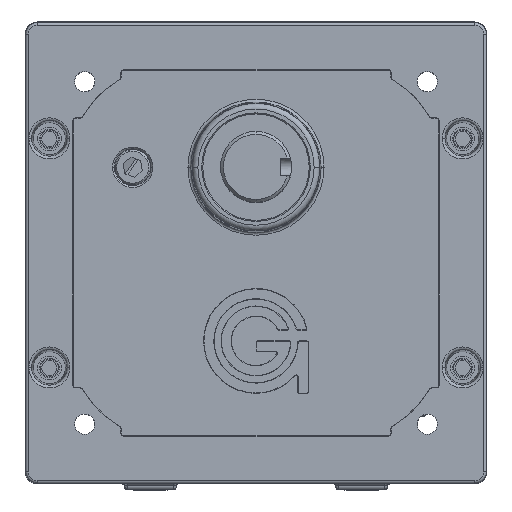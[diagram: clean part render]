
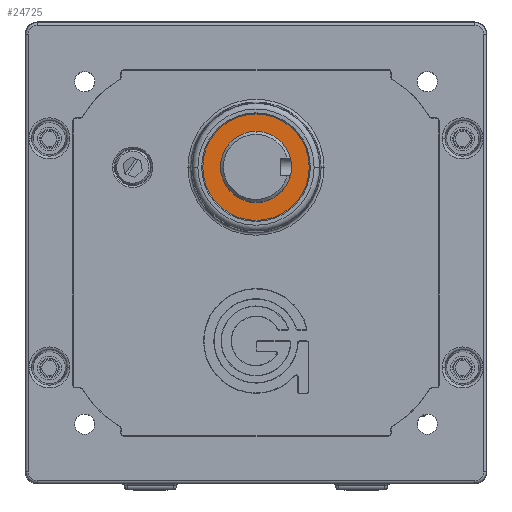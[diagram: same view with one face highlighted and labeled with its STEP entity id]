
A CAD part, top view. The second image highlights one B-rep face of the part: STEP entity #24725.
In plain terms, the highlighted planar face has unit normal (0, 0, 1).
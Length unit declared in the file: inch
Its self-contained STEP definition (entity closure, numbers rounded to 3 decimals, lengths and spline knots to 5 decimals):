
#13005 = DIRECTION ( 'NONE',  ( 1., 0., 0. ) ) ;
#13006 = DIRECTION ( 'NONE',  ( 0., 0., 1. ) ) ;
#13007 = CARTESIAN_POINT ( 'NONE',  ( 0., 0.906, 0.4012 ) ) ;
#13008 = AXIS2_PLACEMENT_3D ( 'NONE', #13007, #13006, #13005 ) ;
#13009 = CIRCLE ( 'NONE', #13008, 0.5625 ) ;
#13011 = CARTESIAN_POINT ( 'NONE',  ( -0.5625, 0.906, 0.4012 ) ) ;
#13012 = CARTESIAN_POINT ( 'NONE',  ( 0.5625, 0.906, 0.4012 ) ) ;
#13013 = DIRECTION ( 'NONE',  ( 1., 0., 0. ) ) ;
#13014 = DIRECTION ( 'NONE',  ( 0., 0., 1. ) ) ;
#13015 = CARTESIAN_POINT ( 'NONE',  ( 0., 0.906, 0.4012 ) ) ;
#13016 = AXIS2_PLACEMENT_3D ( 'NONE', #13015, #13014, #13013 ) ;
#13017 = CIRCLE ( 'NONE', #13016, 0.5625 ) ;
#13018 = DIRECTION ( 'NONE',  ( -1., 0., 0. ) ) ;
#13019 = DIRECTION ( 'NONE',  ( 0., 0., -1. ) ) ;
#13020 = CARTESIAN_POINT ( 'NONE',  ( 0., 1.281, 0.4012 ) ) ;
#13021 = AXIS2_PLACEMENT_3D ( 'NONE', #13020, #13019, #13018 ) ;
#13022 = PLANE ( 'NONE',  #13021 ) ;
#13023 = FACE_OUTER_BOUND ( 'NONE', #24729, .T. ) ;
#13024 = FACE_BOUND ( 'NONE', #24726, .T. ) ;
#13025 = DIRECTION ( 'NONE',  ( 1., 0., 0. ) ) ;
#13026 = DIRECTION ( 'NONE',  ( 0., 0., 1. ) ) ;
#13027 = AXIS2_PLACEMENT_3D ( 'NONE', #13034, #13026, #13025 ) ;
#13028 = CIRCLE ( 'NONE', #13027, 0.375 ) ;
#13034 = CARTESIAN_POINT ( 'NONE',  ( 0., 0.906, 0.4012 ) ) ;
#13054 = CARTESIAN_POINT ( 'NONE',  ( 0.375, 0.906, 0.4012 ) ) ;
#13055 = DIRECTION ( 'NONE',  ( 1., 0., 0. ) ) ;
#13056 = DIRECTION ( 'NONE',  ( 0., 0., 1. ) ) ;
#13057 = CARTESIAN_POINT ( 'NONE',  ( 0., 0.906, 0.4012 ) ) ;
#13058 = AXIS2_PLACEMENT_3D ( 'NONE', #13057, #13056, #13055 ) ;
#13059 = CIRCLE ( 'NONE', #13058, 0.375 ) ;
#13060 = CARTESIAN_POINT ( 'NONE',  ( -0.375, 0.906, 0.4012 ) ) ;
#24724 = EDGE_CURVE ( 'NONE', #24745, #24742, #13028, .T. ) ;
#24725 = ADVANCED_FACE ( 'NONE', ( #13024, #13023 ), #13022, .F. ) ;
#24726 = EDGE_LOOP ( 'NONE', ( #24727, #24728 ) ) ;
#24727 = ORIENTED_EDGE ( 'NONE', *, *, #24724, .F. ) ;
#24728 = ORIENTED_EDGE ( 'NONE', *, *, #24744, .F. ) ;
#24729 = EDGE_LOOP ( 'NONE', ( #24730, #24734 ) ) ;
#24730 = ORIENTED_EDGE ( 'NONE', *, *, #24731, .T. ) ;
#24731 = EDGE_CURVE ( 'NONE', #24732, #24733, #13017, .T. ) ;
#24732 = VERTEX_POINT ( 'NONE', #13012 ) ;
#24733 = VERTEX_POINT ( 'NONE', #13011 ) ;
#24734 = ORIENTED_EDGE ( 'NONE', *, *, #24735, .T. ) ;
#24735 = EDGE_CURVE ( 'NONE', #24733, #24732, #13009, .T. ) ;
#24742 = VERTEX_POINT ( 'NONE', #13060 ) ;
#24744 = EDGE_CURVE ( 'NONE', #24742, #24745, #13059, .T. ) ;
#24745 = VERTEX_POINT ( 'NONE', #13054 ) ;
